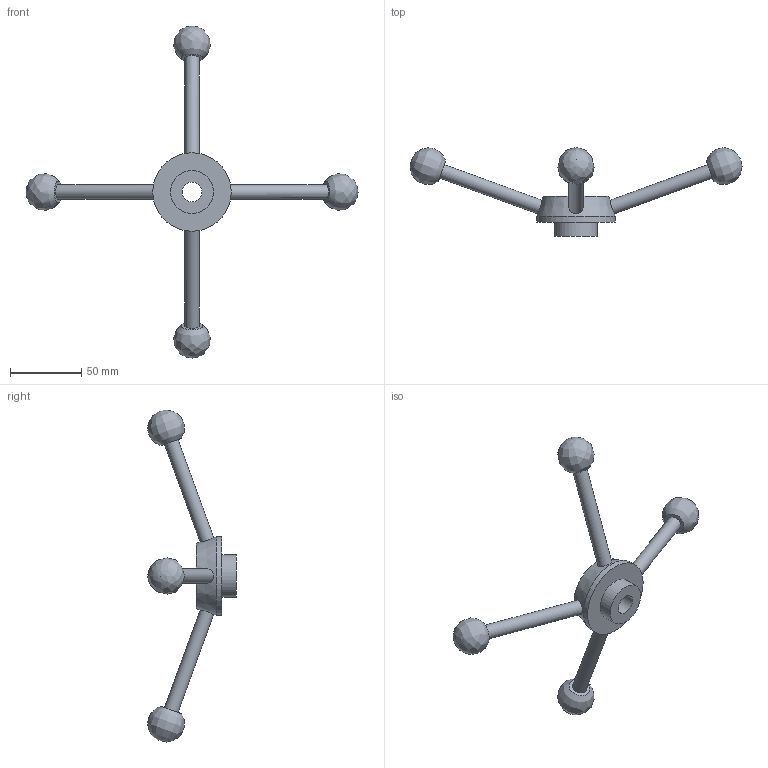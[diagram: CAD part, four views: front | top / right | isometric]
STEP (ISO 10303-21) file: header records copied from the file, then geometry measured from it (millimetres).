
FILE_DESCRIPTION( ( 'STEP AP203' ), '1' );
FILE_NAME( 'C:/Temp/Ganter_Step_05_03_2020/data/2_1/gn_213/gn_213_b/Turret lever GN 213-55-B14.stp', '2020-03-05T11:50:57', ( 'License CC BY-ND 4.0' ), ( 'CADENAS' ), ' ', 'PARTsolutions', ' ' );
FILE_SCHEMA( ( 'CONFIG_CONTROL_DESIGN' ) );
Length unit declared in the file: millimetre
Products named in the file (1): _Turret lever GN 213-55-B14
Bounding box: 232.62 x 62 x 232.62 mm (x, y, z)
Volume: 98125.6 mm3; surface area: 25739.1 mm2
Topology: 1 solids, 1 shells, 19 faces, 42 edges, 29 vertices
Faces by surface type: cylinder 7, plane 7, bspline 4, cone 1
Full cylindrical faces by diameter (mm): 10 x4, 14 x1, 30 x1, 55 x1
Entity records: 816 total; most frequent: CARTESIAN_POINT 458, DIRECTION 62, EDGE_LOOP 38, ORIENTED_EDGE 38, AXIS2_PLACEMENT_3D 31, FACE_OUTER_BOUND 26, VERTEX_POINT 23, ADVANCED_FACE 19
